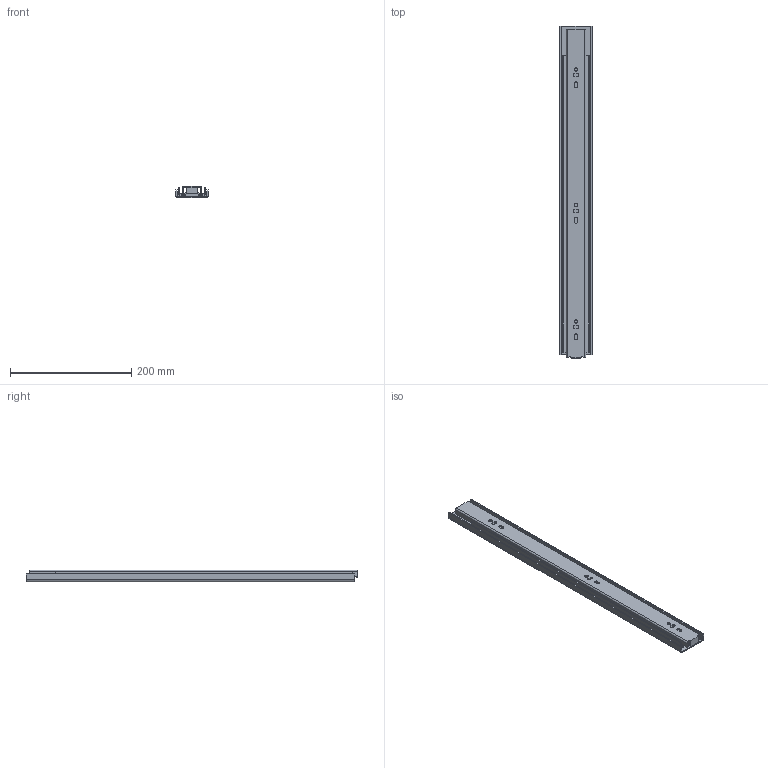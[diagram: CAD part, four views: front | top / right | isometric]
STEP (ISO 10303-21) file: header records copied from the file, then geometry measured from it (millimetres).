
FILE_DESCRIPTION((''),'2;1');
FILE_NAME('78A01_550_CLOSE_ASM','2020-09-01T15:18:30',('T170334'),(''),'CREO PARAMETRIC BY PTC INC, 2018260','CREO PARAMETRIC BY PTC INC, 2018260','');
FILE_SCHEMA(('CONFIG_CONTROL_DESIGN'));
Length unit declared in the file: millimetre
Products named in the file (5): OUT_550; MID_550; IN_550; MECHANISM_C; 78A01_550_CLOSE_ASM
Assembly tree (4 placements, depth 2):
  78A01_550_CLOSE_ASM
    OUT_550
    MID_550
    IN_550
    MECHANISM_C
Bounding box: 53.32 x 548 x 18.84 mm (x, y, z)
Volume: 194637.7 mm3; surface area: 208443.4 mm2
Topology: 4 solids, 4 shells, 162 faces, 458 edges, 304 vertices
Faces by surface type: cylinder 82, plane 80
Entity records: 5511 total; most frequent: CARTESIAN_POINT 973, DIRECTION 948, ORIENTED_EDGE 916, EDGE_CURVE 458, AXIS2_PLACEMENT_3D 327, VERTEX_POINT 304, VECTOR 294, LINE 294
